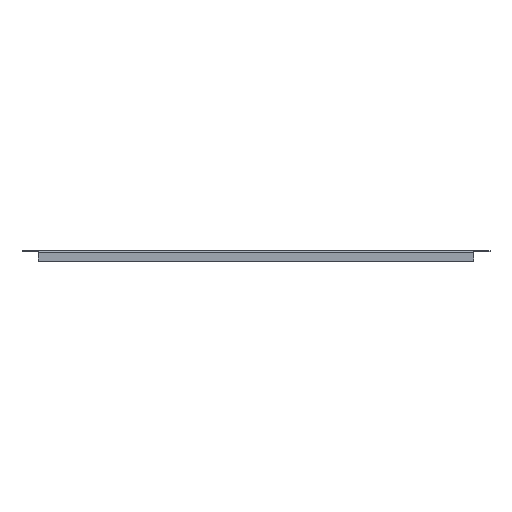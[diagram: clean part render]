
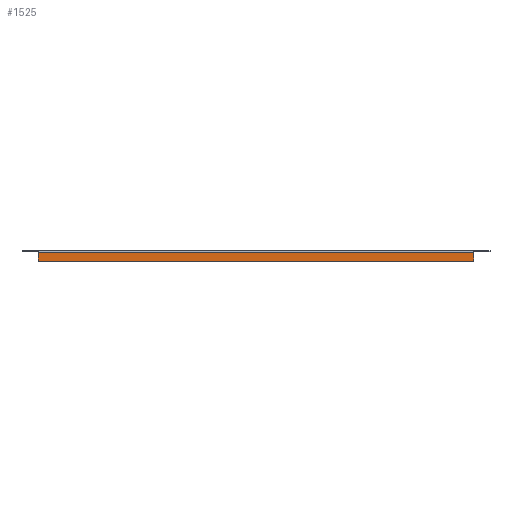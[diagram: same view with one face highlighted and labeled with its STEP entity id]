
A CAD part, front view. The second image highlights one B-rep face of the part: STEP entity #1525.
In plain terms, the highlighted planar face has unit normal (0, -1, 0).
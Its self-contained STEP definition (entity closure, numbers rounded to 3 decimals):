
#28 = CARTESIAN_POINT ( 'NONE',  ( -309.5, -224.5, -13.8 ) ) ;
#30 = DIRECTION ( 'NONE',  ( 0., 0., 1. ) ) ;
#35 = DIRECTION ( 'NONE',  ( -1., 0., 0. ) ) ;
#165 = CARTESIAN_POINT ( 'NONE',  ( 309.5, -224.5, -13.8 ) ) ;
#166 = CARTESIAN_POINT ( 'NONE',  ( -309.5, -224.5, -1.2 ) ) ;
#170 = CARTESIAN_POINT ( 'NONE',  ( 309.5, -224.5, -1.2 ) ) ;
#174 = CARTESIAN_POINT ( 'NONE',  ( -309.5, -224.5, -13.8 ) ) ;
#242 = CARTESIAN_POINT ( 'NONE',  ( 309.5, -224.5, 0. ) ) ;
#244 = PLANE ( 'NONE',  #1685 ) ;
#246 = DIRECTION ( 'NONE',  ( 0., 1., 0. ) ) ;
#247 = DIRECTION ( 'NONE',  ( 0., 0., 1. ) ) ;
#267 = DIRECTION ( 'NONE',  ( 1., 0., 0. ) ) ;
#271 = CARTESIAN_POINT ( 'NONE',  ( 309.5, -224.5, -1.2 ) ) ;
#272 = CARTESIAN_POINT ( 'NONE',  ( 309.5, -224.5, 0. ) ) ;
#280 = CARTESIAN_POINT ( 'NONE',  ( 309.5, -224.5, -13.8 ) ) ;
#282 = DIRECTION ( 'NONE',  ( 0., 0., -1. ) ) ;
#885 = VECTOR ( 'NONE', #35, 1000. ) ;
#891 = VECTOR ( 'NONE', #30, 1000. ) ;
#892 = LINE ( 'NONE', #280, #885 ) ;
#894 = LINE ( 'NONE', #28, #891 ) ;
#895 = VECTOR ( 'NONE', #282, 1000. ) ;
#901 = VECTOR ( 'NONE', #267, 1000. ) ;
#902 = LINE ( 'NONE', #272, #895 ) ;
#903 = LINE ( 'NONE', #271, #901 ) ;
#919 = FACE_OUTER_BOUND ( 'NONE', #1446, .T. ) ;
#1188 = ORIENTED_EDGE ( 'NONE', *, *, #1538, .F. ) ;
#1189 = ORIENTED_EDGE ( 'NONE', *, *, #1543, .F. ) ;
#1190 = ORIENTED_EDGE ( 'NONE', *, *, #1540, .F. ) ;
#1191 = ORIENTED_EDGE ( 'NONE', *, *, #1535, .F. ) ;
#1446 = EDGE_LOOP ( 'NONE', ( #1191, #1190, #1189, #1188 ) ) ;
#1465 = VERTEX_POINT ( 'NONE', #165 ) ;
#1466 = VERTEX_POINT ( 'NONE', #166 ) ;
#1470 = VERTEX_POINT ( 'NONE', #170 ) ;
#1474 = VERTEX_POINT ( 'NONE', #174 ) ;
#1525 = ADVANCED_FACE ( 'NONE', ( #919 ), #244, .F. ) ;
#1535 = EDGE_CURVE ( 'NONE', #1466, #1470, #903, .T. ) ;
#1538 = EDGE_CURVE ( 'NONE', #1470, #1465, #902, .T. ) ;
#1540 = EDGE_CURVE ( 'NONE', #1474, #1466, #894, .T. ) ;
#1543 = EDGE_CURVE ( 'NONE', #1465, #1474, #892, .T. ) ;
#1685 = AXIS2_PLACEMENT_3D ( 'NONE', #242, #246, #247 ) ;
